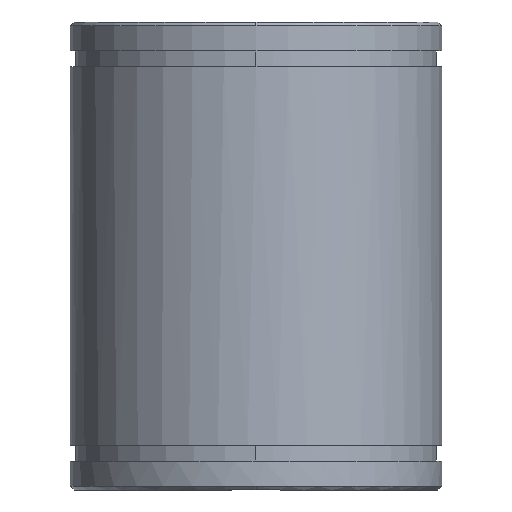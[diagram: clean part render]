
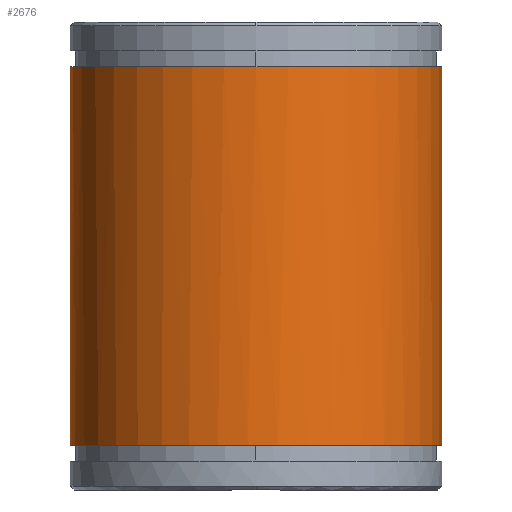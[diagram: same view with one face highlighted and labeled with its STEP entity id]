
A CAD part, front view. The second image highlights one B-rep face of the part: STEP entity #2676.
In plain terms, the highlighted cylindrical face has radius 25 mm (diameter 50 mm), a partial arc.
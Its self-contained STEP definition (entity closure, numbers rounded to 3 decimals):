
#1695=CARTESIAN_POINT('Axis2P3D Location',(0.,0.,57.)) ;
#1699=CARTESIAN_POINT('Vertex',(-25.,0.,57.)) ;
#1701=CARTESIAN_POINT('Vertex',(25.,0.,57.)) ;
#2634=CARTESIAN_POINT('Axis2P3D Location',(0.,0.,-3.15)) ;
#2639=CARTESIAN_POINT('Line Origine',(25.,0.,-3.15)) ;
#2643=CARTESIAN_POINT('Vertex',(25.,0.,6.)) ;
#2646=CARTESIAN_POINT('Line Origine',(-25.,0.,-3.15)) ;
#2650=CARTESIAN_POINT('Vertex',(-25.,0.,6.)) ;
#2654=CARTESIAN_POINT('Control Point',(25.,0.,6.)) ;
#2655=CARTESIAN_POINT('Control Point',(25.,-3.927,6.)) ;
#2656=CARTESIAN_POINT('Control Point',(24.229,-7.854,6.)) ;
#2657=CARTESIAN_POINT('Control Point',(22.686,-11.579,6.)) ;
#2658=CARTESIAN_POINT('Control Point',(18.223,-18.223,6.)) ;
#2659=CARTESIAN_POINT('Control Point',(11.579,-22.686,6.)) ;
#2660=CARTESIAN_POINT('Control Point',(7.854,-24.229,6.)) ;
#2661=CARTESIAN_POINT('Control Point',(0.,-25.771,6.)) ;
#2662=CARTESIAN_POINT('Control Point',(-7.854,-24.229,6.)) ;
#2663=CARTESIAN_POINT('Control Point',(-11.579,-22.686,6.)) ;
#2664=CARTESIAN_POINT('Control Point',(-18.223,-18.223,6.)) ;
#2665=CARTESIAN_POINT('Control Point',(-22.686,-11.579,6.)) ;
#2666=CARTESIAN_POINT('Control Point',(-24.229,-7.854,6.)) ;
#2667=CARTESIAN_POINT('Control Point',(-25.,-3.927,6.)) ;
#2668=CARTESIAN_POINT('Control Point',(-25.,0.,6.)) ;
#1696=DIRECTION('Axis2P3D Direction',(0.,-0.,1.)) ;
#2635=DIRECTION('Axis2P3D Direction',(0.,0.,1.)) ;
#2636=DIRECTION('Axis2P3D XDirection',(-1.,0.,0.)) ;
#2640=DIRECTION('Vector Direction',(0.,0.,1.)) ;
#2647=DIRECTION('Vector Direction',(0.,0.,1.)) ;
#1697=AXIS2_PLACEMENT_3D('Circle Axis2P3D',#1695,#1696,$) ;
#2637=AXIS2_PLACEMENT_3D('Cylinder Axis2P3D',#2634,#2635,#2636) ;
#2671=ORIENTED_EDGE('',*,*,#2645,.F.) ;
#2672=ORIENTED_EDGE('',*,*,#1703,.F.) ;
#2673=ORIENTED_EDGE('',*,*,#2652,.T.) ;
#2674=ORIENTED_EDGE('',*,*,#2669,.F.) ;
#2641=VECTOR('Line Direction',#2640,1.) ;
#2648=VECTOR('Line Direction',#2647,1.) ;
#2676=ADVANCED_FACE('MANIFOLD_SOLID_BREP #2444',(#2675),#2638,.T.) ;
#2653=B_SPLINE_CURVE_WITH_KNOTS('',5,(#2654,#2655,#2656,#2657,#2658,#2659,#2660,#2661,#2662,#2663,#2664,#2665,#2666,#2667,#2668),.UNSPECIFIED.,.F.,.U.,(6,3,3,3,6),(-39.27,-19.635,0.,19.635,39.27),.UNSPECIFIED.) ;
#1698=CIRCLE('generated circle',#1697,25.) ;
#2638=CYLINDRICAL_SURFACE('generated cylinder',#2637,25.) ;
#1703=EDGE_CURVE('',#1700,#1702,#1698,.T.) ;
#2645=EDGE_CURVE('',#1702,#2644,#2642,.F.) ;
#2652=EDGE_CURVE('',#1700,#2651,#2649,.F.) ;
#2669=EDGE_CURVE('',#2644,#2651,#2653,.T.) ;
#2670=EDGE_LOOP('',(#2671,#2672,#2673,#2674)) ;
#2675=FACE_OUTER_BOUND('',#2670,.T.) ;
#2642=LINE('Line',#2639,#2641) ;
#2649=LINE('Line',#2646,#2648) ;
#1700=VERTEX_POINT('',#1699) ;
#1702=VERTEX_POINT('',#1701) ;
#2644=VERTEX_POINT('',#2643) ;
#2651=VERTEX_POINT('',#2650) ;
